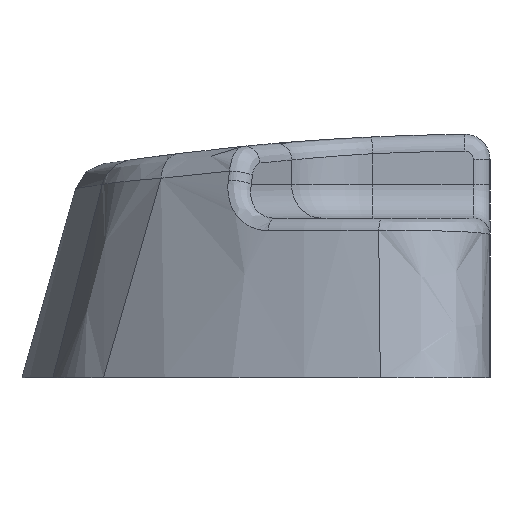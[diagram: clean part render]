
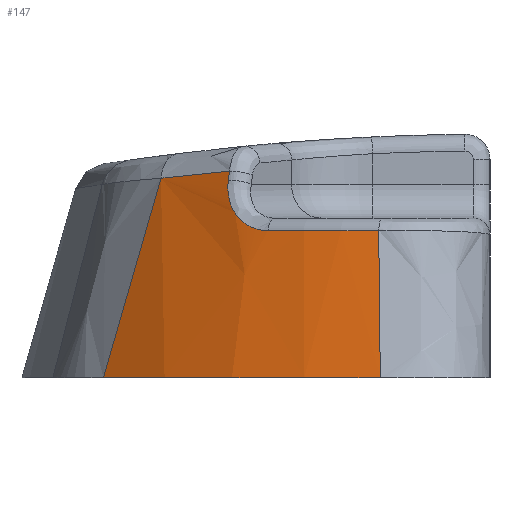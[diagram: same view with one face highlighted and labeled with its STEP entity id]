
A CAD part, left-side view. The second image highlights one B-rep face of the part: STEP entity #147.
In plain terms, the highlighted conical face has half-angle 15 degrees and reference radius 30 mm.
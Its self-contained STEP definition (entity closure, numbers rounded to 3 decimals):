
#86=CONICAL_SURFACE('',#929,30.,15.);
#94=FACE_OUTER_BOUND('',#230,.T.);
#147=ADVANCED_FACE('',(#94),#86,.T.);
#230=EDGE_LOOP('',(#441,#442,#443,#444,#445,#446,#447));
#301=CIRCLE('',#927,33.888);
#302=CIRCLE('',#928,31.538);
#368=B_SPLINE_CURVE_WITH_KNOTS('',3,(#1504,#1505,#1506,#1507,#1508,#1509,
#1510),.UNSPECIFIED.,.F.,.F.,(4,3,4),(0.,0.506,1.),
 .UNSPECIFIED.);
#369=B_SPLINE_CURVE_WITH_KNOTS('',3,(#1515,#1516,#1517,#1518,#1519,#1520,
#1521),.UNSPECIFIED.,.F.,.F.,(4,3,4),(0.,0.497,1.),
 .UNSPECIFIED.);
#370=B_SPLINE_CURVE_WITH_KNOTS('',3,(#1525,#1526,#1527,#1528,#1529,#1530,
#1531,#1532,#1533,#1534,#1535,#1536,#1537,#1538,#1539,#1540),
 .UNSPECIFIED.,.F.,.F.,(4,3,3,3,3,4),(0.,0.203,0.404,
0.607,0.818,1.),.UNSPECIFIED.);
#371=B_SPLINE_CURVE_WITH_KNOTS('',3,(#1542,#1543,#1544,#1545),
 .UNSPECIFIED.,.F.,.F.,(4,4),(0.,1.),.UNSPECIFIED.);
#372=B_SPLINE_CURVE_WITH_KNOTS('',3,(#1547,#1548,#1549,#1550),
 .UNSPECIFIED.,.F.,.F.,(4,4),(0.,1.),.UNSPECIFIED.);
#441=ORIENTED_EDGE('',*,*,#777,.T.);
#442=ORIENTED_EDGE('',*,*,#778,.T.);
#443=ORIENTED_EDGE('',*,*,#779,.T.);
#444=ORIENTED_EDGE('',*,*,#780,.T.);
#445=ORIENTED_EDGE('',*,*,#781,.T.);
#446=ORIENTED_EDGE('',*,*,#782,.T.);
#447=ORIENTED_EDGE('',*,*,#783,.T.);
#697=VERTEX_POINT('',#1511);
#698=VERTEX_POINT('',#1512);
#699=VERTEX_POINT('',#1514);
#700=VERTEX_POINT('',#1522);
#701=VERTEX_POINT('',#1524);
#702=VERTEX_POINT('',#1541);
#703=VERTEX_POINT('',#1546);
#777=EDGE_CURVE('',#697,#698,#368,.T.);
#778=EDGE_CURVE('',#698,#699,#301,.T.);
#779=EDGE_CURVE('',#699,#700,#369,.T.);
#780=EDGE_CURVE('',#700,#701,#302,.T.);
#781=EDGE_CURVE('',#701,#702,#370,.T.);
#782=EDGE_CURVE('',#702,#703,#371,.T.);
#783=EDGE_CURVE('',#703,#697,#372,.T.);
#927=AXIS2_PLACEMENT_3D('',#1513,#1064,#1065);
#928=AXIS2_PLACEMENT_3D('',#1523,#1066,#1067);
#929=AXIS2_PLACEMENT_3D('',#1551,#1068,#1069);
#1064=DIRECTION('',(0.,0.,1.));
#1065=DIRECTION('',(1.,0.,0.));
#1066=DIRECTION('',(0.,0.,-1.));
#1067=DIRECTION('',(1.,0.,0.));
#1068=DIRECTION('',(0.,0.,-1.));
#1069=DIRECTION('',(1.,0.,0.));
#1504=CARTESIAN_POINT('',(-38.201,7.107,11.883));
#1505=CARTESIAN_POINT('',(-38.409,7.693,9.884));
#1506=CARTESIAN_POINT('',(-38.616,8.274,7.882));
#1507=CARTESIAN_POINT('',(-38.822,8.851,5.88));
#1508=CARTESIAN_POINT('',(-39.022,9.416,3.921));
#1509=CARTESIAN_POINT('',(-39.222,9.977,1.961));
#1510=CARTESIAN_POINT('',(-39.42,10.534,0.));
#1511=CARTESIAN_POINT('',(-38.201,7.107,11.883));
#1512=CARTESIAN_POINT('',(-39.42,10.534,0.));
#1513=CARTESIAN_POINT('',(-14.646,-12.587,0.));
#1514=CARTESIAN_POINT('',(-47.879,-5.961,0.));
#1515=CARTESIAN_POINT('',(-47.879,-5.961,0.));
#1516=CARTESIAN_POINT('',(-47.479,-5.947,1.454));
#1517=CARTESIAN_POINT('',(-47.079,-5.932,2.907));
#1518=CARTESIAN_POINT('',(-46.678,-5.917,4.36));
#1519=CARTESIAN_POINT('',(-46.273,-5.901,5.83));
#1520=CARTESIAN_POINT('',(-45.867,-5.885,7.3));
#1521=CARTESIAN_POINT('',(-45.46,-5.868,8.769));
#1522=CARTESIAN_POINT('',(-45.46,-5.868,8.769));
#1523=CARTESIAN_POINT('',(-14.646,-12.587,8.769));
#1524=CARTESIAN_POINT('',(-43.23,0.74,8.769));
#1525=CARTESIAN_POINT('',(-43.23,0.74,8.769));
#1526=CARTESIAN_POINT('',(-43.091,1.037,8.769));
#1527=CARTESIAN_POINT('',(-42.934,1.33,8.82));
#1528=CARTESIAN_POINT('',(-42.77,1.595,8.92));
#1529=CARTESIAN_POINT('',(-42.607,1.859,9.019));
#1530=CARTESIAN_POINT('',(-42.434,2.103,9.168));
#1531=CARTESIAN_POINT('',(-42.266,2.309,9.356));
#1532=CARTESIAN_POINT('',(-42.096,2.517,9.545));
#1533=CARTESIAN_POINT('',(-41.927,2.692,9.777));
#1534=CARTESIAN_POINT('',(-41.774,2.822,10.035));
#1535=CARTESIAN_POINT('',(-41.613,2.959,10.304));
#1536=CARTESIAN_POINT('',(-41.465,3.051,10.608));
#1537=CARTESIAN_POINT('',(-41.343,3.093,10.923));
#1538=CARTESIAN_POINT('',(-41.237,3.129,11.196));
#1539=CARTESIAN_POINT('',(-41.147,3.129,11.484));
#1540=CARTESIAN_POINT('',(-41.08,3.092,11.769));
#1541=CARTESIAN_POINT('',(-41.08,3.092,11.769));
#1542=CARTESIAN_POINT('',(-41.08,3.092,11.769));
#1543=CARTESIAN_POINT('',(-41.037,3.069,11.95));
#1544=CARTESIAN_POINT('',(-40.995,3.045,12.131));
#1545=CARTESIAN_POINT('',(-40.952,3.022,12.312));
#1546=CARTESIAN_POINT('',(-40.952,3.022,12.312));
#1547=CARTESIAN_POINT('',(-40.952,3.022,12.312));
#1548=CARTESIAN_POINT('',(-40.148,4.446,12.18));
#1549=CARTESIAN_POINT('',(-39.233,5.809,12.036));
#1550=CARTESIAN_POINT('',(-38.201,7.107,11.883));
#1551=CARTESIAN_POINT('',(-14.646,-12.587,14.51));
